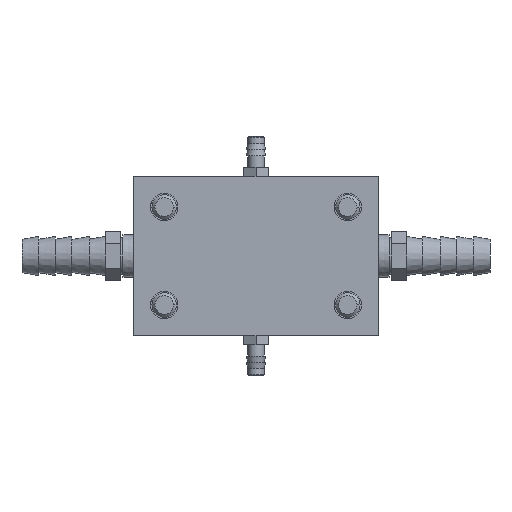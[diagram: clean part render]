
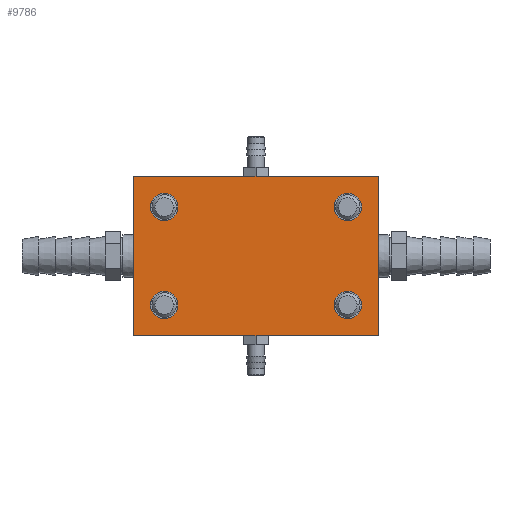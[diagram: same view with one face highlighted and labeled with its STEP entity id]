
A CAD part, left-side view. The second image highlights one B-rep face of the part: STEP entity #9786.
In plain terms, the highlighted planar face has unit normal (-1, 0, 0).
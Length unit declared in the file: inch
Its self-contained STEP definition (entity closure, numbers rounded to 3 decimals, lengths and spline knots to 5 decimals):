
#9524=CARTESIAN_POINT('',(-3.25,-0.9375,-0.5));
#9525=DIRECTION('',(1.,0.,0.));
#9526=DIRECTION('',(0.,-1.,0.));
#9527=AXIS2_PLACEMENT_3D('',#9524,#9525,#9526);
#9529=CARTESIAN_POINT('',(-3.25,-0.9375,-0.5));
#9530=DIRECTION('',(1.,0.,0.));
#9531=DIRECTION('',(0.,1.,0.));
#9532=AXIS2_PLACEMENT_3D('',#9529,#9530,#9531);
#9534=CARTESIAN_POINT('',(-3.25,0.9375,-0.5));
#9535=DIRECTION('',(1.,0.,0.));
#9536=DIRECTION('',(0.,-1.,0.));
#9537=AXIS2_PLACEMENT_3D('',#9534,#9535,#9536);
#9539=CARTESIAN_POINT('',(-3.25,0.9375,-0.5));
#9540=DIRECTION('',(1.,0.,0.));
#9541=DIRECTION('',(0.,1.,0.));
#9542=AXIS2_PLACEMENT_3D('',#9539,#9540,#9541);
#9544=CARTESIAN_POINT('',(-3.25,0.9375,0.5));
#9545=DIRECTION('',(1.,0.,0.));
#9546=DIRECTION('',(0.,-1.,0.));
#9547=AXIS2_PLACEMENT_3D('',#9544,#9545,#9546);
#9549=CARTESIAN_POINT('',(-3.25,0.9375,0.5));
#9550=DIRECTION('',(1.,0.,0.));
#9551=DIRECTION('',(0.,1.,0.));
#9552=AXIS2_PLACEMENT_3D('',#9549,#9550,#9551);
#9554=CARTESIAN_POINT('',(-3.25,-0.9375,0.5));
#9555=DIRECTION('',(1.,0.,0.));
#9556=DIRECTION('',(0.,-1.,0.));
#9557=AXIS2_PLACEMENT_3D('',#9554,#9555,#9556);
#9559=CARTESIAN_POINT('',(-3.25,-0.9375,0.5));
#9560=DIRECTION('',(1.,0.,0.));
#9561=DIRECTION('',(0.,1.,0.));
#9562=AXIS2_PLACEMENT_3D('',#9559,#9560,#9561);
#9656=DIRECTION('',(0.,0.,-1.));
#9657=VECTOR('',#9656,1.625);
#9658=CARTESIAN_POINT('',(-3.25,-1.25,0.8125));
#9659=LINE('',#9658,#9657);
#9664=DIRECTION('',(0.,1.,0.));
#9665=VECTOR('',#9664,2.5);
#9666=CARTESIAN_POINT('',(-3.25,-1.25,-0.8125));
#9667=LINE('',#9666,#9665);
#9668=DIRECTION('',(0.,0.,1.));
#9669=VECTOR('',#9668,1.625);
#9670=CARTESIAN_POINT('',(-3.25,1.25,-0.8125));
#9671=LINE('',#9670,#9669);
#9676=DIRECTION('',(0.,-1.,0.));
#9677=VECTOR('',#9676,2.5);
#9678=CARTESIAN_POINT('',(-3.25,1.25,0.8125));
#9679=LINE('',#9678,#9677);
#9688=CARTESIAN_POINT('',(-3.25,-1.25,-0.8125));
#9689=CARTESIAN_POINT('',(-3.25,1.25,-0.8125));
#9690=VERTEX_POINT('',#9688);
#9691=VERTEX_POINT('',#9689);
#9694=CARTESIAN_POINT('',(-3.25,-1.25,0.8125));
#9695=VERTEX_POINT('',#9694);
#9696=CARTESIAN_POINT('',(-3.25,1.25,0.8125));
#9697=VERTEX_POINT('',#9696);
#9700=CARTESIAN_POINT('',(-3.25,1.07813,0.5));
#9702=VERTEX_POINT('',#9700);
#9704=CARTESIAN_POINT('',(-3.25,0.79688,0.5));
#9706=VERTEX_POINT('',#9704);
#9708=CARTESIAN_POINT('',(-3.25,-0.79688,0.5));
#9710=VERTEX_POINT('',#9708);
#9712=CARTESIAN_POINT('',(-3.25,-1.07813,0.5));
#9714=VERTEX_POINT('',#9712);
#9716=CARTESIAN_POINT('',(-3.25,1.07813,-0.5));
#9718=VERTEX_POINT('',#9716);
#9720=CARTESIAN_POINT('',(-3.25,0.79688,-0.5));
#9722=VERTEX_POINT('',#9720);
#9724=CARTESIAN_POINT('',(-3.25,-0.79688,-0.5));
#9726=VERTEX_POINT('',#9724);
#9728=CARTESIAN_POINT('',(-3.25,-1.07813,-0.5));
#9730=VERTEX_POINT('',#9728);
#9748=CARTESIAN_POINT('',(-3.25,0.,0.));
#9749=DIRECTION('',(1.,0.,0.));
#9750=DIRECTION('',(0.,-1.,0.));
#9751=AXIS2_PLACEMENT_3D('',#9748,#9749,#9750);
#9752=PLANE('',#9751);
#9754=ORIENTED_EDGE('',*,*,#9753,.T.);
#9756=ORIENTED_EDGE('',*,*,#9755,.T.);
#9758=ORIENTED_EDGE('',*,*,#9757,.T.);
#9760=ORIENTED_EDGE('',*,*,#9759,.T.);
#9761=EDGE_LOOP('',(#9754,#9756,#9758,#9760));
#9762=FACE_OUTER_BOUND('',#9761,.F.);
#9764=ORIENTED_EDGE('',*,*,#9763,.F.);
#9766=ORIENTED_EDGE('',*,*,#9765,.F.);
#9767=EDGE_LOOP('',(#9764,#9766));
#9768=FACE_BOUND('',#9767,.F.);
#9769=ORIENTED_EDGE('',*,*,#9737,.F.);
#9771=ORIENTED_EDGE('',*,*,#9770,.F.);
#9772=EDGE_LOOP('',(#9769,#9771));
#9773=FACE_BOUND('',#9772,.F.);
#9775=ORIENTED_EDGE('',*,*,#9774,.F.);
#9777=ORIENTED_EDGE('',*,*,#9776,.F.);
#9778=EDGE_LOOP('',(#9775,#9777));
#9779=FACE_BOUND('',#9778,.F.);
#9781=ORIENTED_EDGE('',*,*,#9780,.F.);
#9783=ORIENTED_EDGE('',*,*,#9782,.F.);
#9784=EDGE_LOOP('',(#9781,#9783));
#9785=FACE_BOUND('',#9784,.F.);
#9528=CIRCLE('',#9527,0.14063);
#9533=CIRCLE('',#9532,0.14063);
#9538=CIRCLE('',#9537,0.14063);
#9543=CIRCLE('',#9542,0.14063);
#9548=CIRCLE('',#9547,0.14063);
#9553=CIRCLE('',#9552,0.14063);
#9558=CIRCLE('',#9557,0.14063);
#9563=CIRCLE('',#9562,0.14063);
#9737=EDGE_CURVE('',#9706,#9702,#9548,.T.);
#9753=EDGE_CURVE('',#9690,#9691,#9667,.T.);
#9755=EDGE_CURVE('',#9691,#9697,#9671,.T.);
#9757=EDGE_CURVE('',#9697,#9695,#9679,.T.);
#9759=EDGE_CURVE('',#9695,#9690,#9659,.T.);
#9763=EDGE_CURVE('',#9722,#9718,#9538,.T.);
#9765=EDGE_CURVE('',#9718,#9722,#9543,.T.);
#9770=EDGE_CURVE('',#9702,#9706,#9553,.T.);
#9774=EDGE_CURVE('',#9714,#9710,#9558,.T.);
#9776=EDGE_CURVE('',#9710,#9714,#9563,.T.);
#9780=EDGE_CURVE('',#9730,#9726,#9528,.T.);
#9782=EDGE_CURVE('',#9726,#9730,#9533,.T.);
#9786=ADVANCED_FACE('',(#9762,#9768,#9773,#9779,#9785),#9752,.F.);
